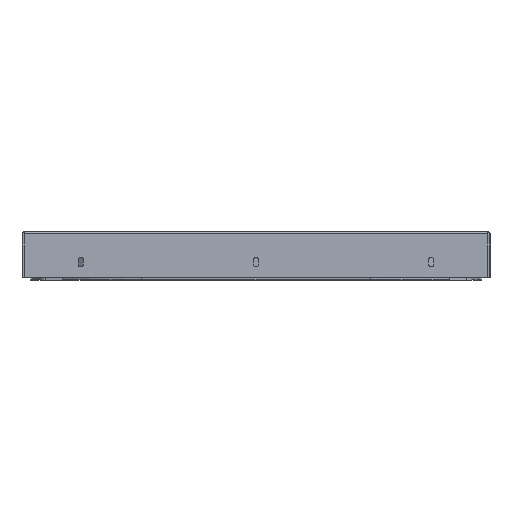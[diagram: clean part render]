
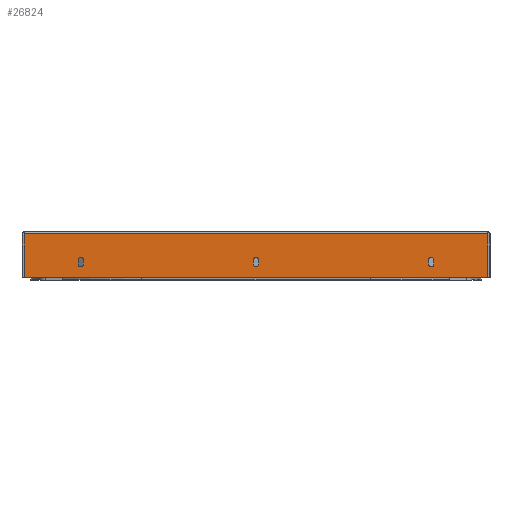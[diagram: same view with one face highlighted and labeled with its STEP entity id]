
A CAD part, front view. The second image highlights one B-rep face of the part: STEP entity #26824.
In plain terms, the highlighted planar face has unit normal (0, -1, 0).
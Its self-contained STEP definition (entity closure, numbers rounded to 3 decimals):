
#23920=CARTESIAN_POINT('',(-230.,-155.,-35.5));
#23921=DIRECTION('',(0.,1.,0.));
#23922=DIRECTION('',(-1.,0.,0.));
#23923=AXIS2_PLACEMENT_3D('',#23920,#23921,#23922);
#23928=CARTESIAN_POINT('',(-230.,-155.,-40.5));
#23929=DIRECTION('',(0.,1.,0.));
#23930=DIRECTION('',(1.,0.,0.));
#23931=AXIS2_PLACEMENT_3D('',#23928,#23929,#23930);
#23936=CARTESIAN_POINT('',(230.,-155.,-35.5));
#23937=DIRECTION('',(0.,1.,0.));
#23938=DIRECTION('',(-1.,0.,0.));
#23939=AXIS2_PLACEMENT_3D('',#23936,#23937,#23938);
#23944=CARTESIAN_POINT('',(230.,-155.,-40.5));
#23945=DIRECTION('',(0.,1.,0.));
#23946=DIRECTION('',(1.,0.,0.));
#23947=AXIS2_PLACEMENT_3D('',#23944,#23945,#23946);
#23952=CARTESIAN_POINT('',(0.,-155.,-35.5));
#23953=DIRECTION('',(0.,1.,0.));
#23954=DIRECTION('',(-1.,0.,0.));
#23955=AXIS2_PLACEMENT_3D('',#23952,#23953,#23954);
#23960=CARTESIAN_POINT('',(0.,-155.,-40.5));
#23961=DIRECTION('',(0.,1.,0.));
#23962=DIRECTION('',(1.,0.,0.));
#23963=AXIS2_PLACEMENT_3D('',#23960,#23961,#23962);
#23968=DIRECTION('',(0.,0.,1.));
#23969=VECTOR('',#23968,57.);
#23970=CARTESIAN_POINT('',(304.293,-155.,-58.));
#23971=LINE('',#23970,#23969);
#23975=DIRECTION('',(0.,0.,-1.));
#23976=VECTOR('',#23975,57.);
#23977=CARTESIAN_POINT('',(-304.293,-155.,-1.));
#23978=LINE('',#23977,#23976);
#24003=DIRECTION('',(0.,0.,1.));
#24004=VECTOR('',#24003,5.);
#24005=CARTESIAN_POINT('',(-226.5,-155.,-40.5));
#24006=LINE('',#24005,#24004);
#24031=DIRECTION('',(0.,0.,-1.));
#24032=VECTOR('',#24031,5.);
#24033=CARTESIAN_POINT('',(-233.5,-155.,-35.5));
#24034=LINE('',#24033,#24032);
#24100=DIRECTION('',(0.,0.,-1.));
#24101=VECTOR('',#24100,5.);
#24102=CARTESIAN_POINT('',(226.5,-155.,-35.5));
#24103=LINE('',#24102,#24101);
#24128=DIRECTION('',(0.,0.,1.));
#24129=VECTOR('',#24128,5.);
#24130=CARTESIAN_POINT('',(233.5,-155.,-40.5));
#24131=LINE('',#24130,#24129);
#24156=DIRECTION('',(0.,0.,-1.));
#24157=VECTOR('',#24156,5.);
#24158=CARTESIAN_POINT('',(-3.5,-155.,-35.5));
#24159=LINE('',#24158,#24157);
#24184=DIRECTION('',(0.,0.,1.));
#24185=VECTOR('',#24184,5.);
#24186=CARTESIAN_POINT('',(3.5,-155.,-40.5));
#24187=LINE('',#24186,#24185);
#25617=CARTESIAN_POINT('',(304.293,-155.,-1.));
#25631=DIRECTION('',(1.,0.,0.));
#25632=VECTOR('',#25631,608.586);
#25633=CARTESIAN_POINT('',(-304.293,-155.,-1.));
#25634=LINE('',#25633,#25632);
#25652=DIRECTION('',(-1.,0.,0.));
#25653=VECTOR('',#25652,608.586);
#25654=CARTESIAN_POINT('',(304.293,-155.,-58.));
#25655=LINE('',#25654,#25653);
#25905=VERTEX_POINT('',#25617);
#25906=CARTESIAN_POINT('',(-304.293,-155.,-1.));
#25907=VERTEX_POINT('',#25906);
#25914=CARTESIAN_POINT('',(304.293,-155.,-58.));
#25916=VERTEX_POINT('',#25914);
#26042=CARTESIAN_POINT('',(-304.293,-155.,-58.));
#26044=VERTEX_POINT('',#26042);
#26047=CARTESIAN_POINT('',(-3.5,-155.,-35.5));
#26048=CARTESIAN_POINT('',(-3.5,-155.,-40.5));
#26049=VERTEX_POINT('',#26047);
#26050=VERTEX_POINT('',#26048);
#26051=CARTESIAN_POINT('',(3.5,-155.,-40.5));
#26052=VERTEX_POINT('',#26051);
#26053=CARTESIAN_POINT('',(3.5,-155.,-35.5));
#26054=VERTEX_POINT('',#26053);
#26055=CARTESIAN_POINT('',(226.5,-155.,-35.5));
#26056=CARTESIAN_POINT('',(226.5,-155.,-40.5));
#26057=VERTEX_POINT('',#26055);
#26058=VERTEX_POINT('',#26056);
#26059=CARTESIAN_POINT('',(233.5,-155.,-40.5));
#26060=VERTEX_POINT('',#26059);
#26061=CARTESIAN_POINT('',(233.5,-155.,-35.5));
#26062=VERTEX_POINT('',#26061);
#26063=CARTESIAN_POINT('',(-233.5,-155.,-35.5));
#26064=CARTESIAN_POINT('',(-233.5,-155.,-40.5));
#26065=VERTEX_POINT('',#26063);
#26066=VERTEX_POINT('',#26064);
#26067=CARTESIAN_POINT('',(-226.5,-155.,-40.5));
#26068=VERTEX_POINT('',#26067);
#26069=CARTESIAN_POINT('',(-226.5,-155.,-35.5));
#26070=VERTEX_POINT('',#26069);
#26780=CARTESIAN_POINT('',(-305.,-155.,0.));
#26781=DIRECTION('',(0.,1.,0.));
#26782=DIRECTION('',(0.,0.,1.));
#26783=AXIS2_PLACEMENT_3D('',#26780,#26781,#26782);
#26784=PLANE('',#26783);
#26786=ORIENTED_EDGE('',*,*,#26785,.T.);
#26787=ORIENTED_EDGE('',*,*,#26774,.F.);
#26789=ORIENTED_EDGE('',*,*,#26788,.T.);
#26791=ORIENTED_EDGE('',*,*,#26790,.F.);
#26792=EDGE_LOOP('',(#26786,#26787,#26789,#26791));
#26793=FACE_OUTER_BOUND('',#26792,.F.);
#26795=ORIENTED_EDGE('',*,*,#26794,.F.);
#26797=ORIENTED_EDGE('',*,*,#26796,.T.);
#26799=ORIENTED_EDGE('',*,*,#26798,.F.);
#26801=ORIENTED_EDGE('',*,*,#26800,.T.);
#26802=EDGE_LOOP('',(#26795,#26797,#26799,#26801));
#26803=FACE_BOUND('',#26802,.F.);
#26805=ORIENTED_EDGE('',*,*,#26804,.F.);
#26807=ORIENTED_EDGE('',*,*,#26806,.T.);
#26809=ORIENTED_EDGE('',*,*,#26808,.F.);
#26811=ORIENTED_EDGE('',*,*,#26810,.T.);
#26812=EDGE_LOOP('',(#26805,#26807,#26809,#26811));
#26813=FACE_BOUND('',#26812,.F.);
#26815=ORIENTED_EDGE('',*,*,#26814,.F.);
#26817=ORIENTED_EDGE('',*,*,#26816,.T.);
#26819=ORIENTED_EDGE('',*,*,#26818,.F.);
#26821=ORIENTED_EDGE('',*,*,#26820,.T.);
#26822=EDGE_LOOP('',(#26815,#26817,#26819,#26821));
#26823=FACE_BOUND('',#26822,.F.);
#23924=CIRCLE('',#23923,3.5);
#23932=CIRCLE('',#23931,3.5);
#23940=CIRCLE('',#23939,3.5);
#23948=CIRCLE('',#23947,3.5);
#23956=CIRCLE('',#23955,3.5);
#23964=CIRCLE('',#23963,3.5);
#26774=EDGE_CURVE('',#25916,#25905,#23971,.T.);
#26785=EDGE_CURVE('',#25907,#25905,#25634,.T.);
#26788=EDGE_CURVE('',#25916,#26044,#25655,.T.);
#26790=EDGE_CURVE('',#25907,#26044,#23978,.T.);
#26794=EDGE_CURVE('',#26057,#26062,#23940,.T.);
#26796=EDGE_CURVE('',#26057,#26058,#24103,.T.);
#26798=EDGE_CURVE('',#26060,#26058,#23948,.T.);
#26800=EDGE_CURVE('',#26060,#26062,#24131,.T.);
#26804=EDGE_CURVE('',#26049,#26054,#23956,.T.);
#26806=EDGE_CURVE('',#26049,#26050,#24159,.T.);
#26808=EDGE_CURVE('',#26052,#26050,#23964,.T.);
#26810=EDGE_CURVE('',#26052,#26054,#24187,.T.);
#26814=EDGE_CURVE('',#26065,#26070,#23924,.T.);
#26816=EDGE_CURVE('',#26065,#26066,#24034,.T.);
#26818=EDGE_CURVE('',#26068,#26066,#23932,.T.);
#26820=EDGE_CURVE('',#26068,#26070,#24006,.T.);
#26824=ADVANCED_FACE('',(#26793,#26803,#26813,#26823),#26784,.F.);
